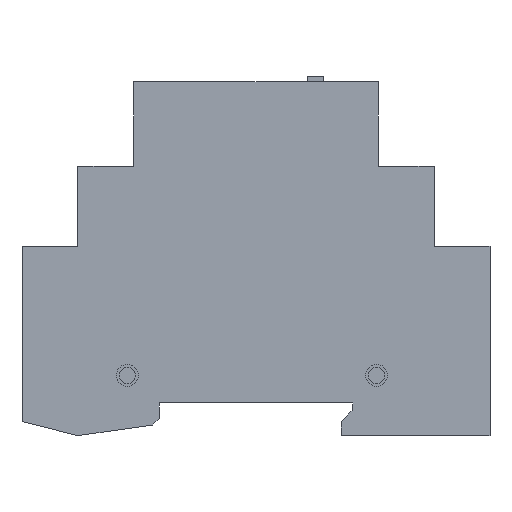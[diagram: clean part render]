
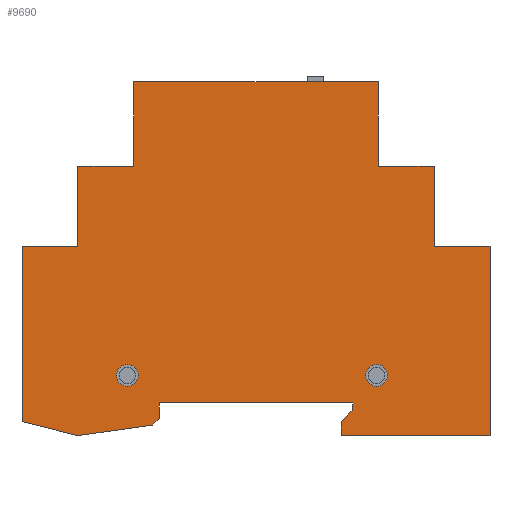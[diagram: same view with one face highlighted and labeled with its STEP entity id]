
A CAD part, left-side view. The second image highlights one B-rep face of the part: STEP entity #9690.
In plain terms, the highlighted planar face has unit normal (-1, 0, 0).
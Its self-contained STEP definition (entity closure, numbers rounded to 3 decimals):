
#388=LINE('',#14154,#1338);
#391=LINE('',#14159,#1341);
#393=LINE('',#14163,#1343);
#395=LINE('',#14167,#1345);
#397=LINE('',#14171,#1347);
#399=LINE('',#14175,#1349);
#401=LINE('',#14179,#1351);
#403=LINE('',#14183,#1353);
#405=LINE('',#14187,#1355);
#407=LINE('',#14191,#1357);
#409=LINE('',#14195,#1359);
#411=LINE('',#14199,#1361);
#413=LINE('',#14203,#1363);
#415=LINE('',#14207,#1365);
#417=LINE('',#14211,#1367);
#419=LINE('',#14215,#1369);
#421=LINE('',#14219,#1371);
#423=LINE('',#14223,#1373);
#425=LINE('',#14227,#1375);
#427=LINE('',#14231,#1377);
#429=LINE('',#14234,#1379);
#1338=VECTOR('',#11516,10.);
#1341=VECTOR('',#11521,10.);
#1343=VECTOR('',#11525,10.);
#1345=VECTOR('',#11529,10.);
#1347=VECTOR('',#11533,10.);
#1349=VECTOR('',#11537,10.);
#1351=VECTOR('',#11541,10.);
#1353=VECTOR('',#11545,10.);
#1355=VECTOR('',#11549,10.);
#1357=VECTOR('',#11553,10.);
#1359=VECTOR('',#11557,10.);
#1361=VECTOR('',#11561,10.);
#1363=VECTOR('',#11565,10.);
#1365=VECTOR('',#11569,10.);
#1367=VECTOR('',#11573,10.);
#1369=VECTOR('',#11577,10.);
#1371=VECTOR('',#11581,10.);
#1373=VECTOR('',#11585,10.);
#1375=VECTOR('',#11589,10.);
#1377=VECTOR('',#11593,10.);
#1379=VECTOR('',#11597,10.);
#2233=FACE_BOUND('',#3276,.T.);
#2234=FACE_BOUND('',#3277,.T.);
#2588=FACE_OUTER_BOUND('',#3275,.T.);
#3275=EDGE_LOOP('',(#6844,#6845,#6846,#6847,#6848,#6849,#6850,#6851,#6852,
#6853,#6854,#6855,#6856,#6857,#6858,#6859,#6860,#6861,#6862,#6863,#6864));
#3276=EDGE_LOOP('',(#6865));
#3277=EDGE_LOOP('',(#6866));
#3988=CIRCLE('',#10401,2.);
#3990=CIRCLE('',#10405,2.);
#4329=VERTEX_POINT('',#14142);
#4331=VERTEX_POINT('',#14148);
#4332=VERTEX_POINT('',#14152);
#4333=VERTEX_POINT('',#14153);
#4334=VERTEX_POINT('',#14158);
#4335=VERTEX_POINT('',#14162);
#4336=VERTEX_POINT('',#14166);
#4337=VERTEX_POINT('',#14170);
#4338=VERTEX_POINT('',#14174);
#4339=VERTEX_POINT('',#14178);
#4340=VERTEX_POINT('',#14182);
#4341=VERTEX_POINT('',#14186);
#4342=VERTEX_POINT('',#14190);
#4343=VERTEX_POINT('',#14194);
#4344=VERTEX_POINT('',#14198);
#4345=VERTEX_POINT('',#14202);
#4346=VERTEX_POINT('',#14206);
#4347=VERTEX_POINT('',#14210);
#4348=VERTEX_POINT('',#14214);
#4349=VERTEX_POINT('',#14218);
#4350=VERTEX_POINT('',#14222);
#4351=VERTEX_POINT('',#14226);
#4352=VERTEX_POINT('',#14230);
#5301=EDGE_CURVE('',#4329,#4329,#3988,.T.);
#5303=EDGE_CURVE('',#4331,#4331,#3990,.T.);
#5304=EDGE_CURVE('',#4332,#4333,#388,.T.);
#5307=EDGE_CURVE('',#4334,#4332,#391,.T.);
#5309=EDGE_CURVE('',#4335,#4334,#393,.T.);
#5311=EDGE_CURVE('',#4336,#4335,#395,.T.);
#5313=EDGE_CURVE('',#4337,#4336,#397,.T.);
#5315=EDGE_CURVE('',#4338,#4337,#399,.T.);
#5317=EDGE_CURVE('',#4339,#4338,#401,.T.);
#5319=EDGE_CURVE('',#4340,#4339,#403,.T.);
#5321=EDGE_CURVE('',#4341,#4340,#405,.T.);
#5323=EDGE_CURVE('',#4342,#4341,#407,.T.);
#5325=EDGE_CURVE('',#4343,#4342,#409,.T.);
#5327=EDGE_CURVE('',#4344,#4343,#411,.T.);
#5329=EDGE_CURVE('',#4345,#4344,#413,.T.);
#5331=EDGE_CURVE('',#4346,#4345,#415,.T.);
#5333=EDGE_CURVE('',#4347,#4346,#417,.T.);
#5335=EDGE_CURVE('',#4348,#4347,#419,.T.);
#5337=EDGE_CURVE('',#4349,#4348,#421,.T.);
#5339=EDGE_CURVE('',#4350,#4349,#423,.T.);
#5341=EDGE_CURVE('',#4351,#4350,#425,.T.);
#5343=EDGE_CURVE('',#4352,#4351,#427,.T.);
#5345=EDGE_CURVE('',#4333,#4352,#429,.T.);
#6844=ORIENTED_EDGE('',*,*,#5345,.F.);
#6845=ORIENTED_EDGE('',*,*,#5304,.F.);
#6846=ORIENTED_EDGE('',*,*,#5307,.F.);
#6847=ORIENTED_EDGE('',*,*,#5309,.F.);
#6848=ORIENTED_EDGE('',*,*,#5311,.F.);
#6849=ORIENTED_EDGE('',*,*,#5313,.F.);
#6850=ORIENTED_EDGE('',*,*,#5315,.F.);
#6851=ORIENTED_EDGE('',*,*,#5317,.F.);
#6852=ORIENTED_EDGE('',*,*,#5319,.F.);
#6853=ORIENTED_EDGE('',*,*,#5321,.F.);
#6854=ORIENTED_EDGE('',*,*,#5323,.F.);
#6855=ORIENTED_EDGE('',*,*,#5325,.F.);
#6856=ORIENTED_EDGE('',*,*,#5327,.F.);
#6857=ORIENTED_EDGE('',*,*,#5329,.F.);
#6858=ORIENTED_EDGE('',*,*,#5331,.F.);
#6859=ORIENTED_EDGE('',*,*,#5333,.F.);
#6860=ORIENTED_EDGE('',*,*,#5335,.F.);
#6861=ORIENTED_EDGE('',*,*,#5337,.F.);
#6862=ORIENTED_EDGE('',*,*,#5339,.F.);
#6863=ORIENTED_EDGE('',*,*,#5341,.F.);
#6864=ORIENTED_EDGE('',*,*,#5343,.F.);
#6865=ORIENTED_EDGE('',*,*,#5301,.T.);
#6866=ORIENTED_EDGE('',*,*,#5303,.T.);
#9171=PLANE('',#10428);
#9690=ADVANCED_FACE('',(#2588,#2233,#2234),#9171,.F.);
#10401=AXIS2_PLACEMENT_3D('',#14143,#11502,#11503);
#10405=AXIS2_PLACEMENT_3D('',#14149,#11510,#11511);
#10428=AXIS2_PLACEMENT_3D('',#14235,#11598,#11599);
#11502=DIRECTION('center_axis',(1.,0.,0.));
#11503=DIRECTION('ref_axis',(0.,0.,-1.));
#11510=DIRECTION('center_axis',(1.,0.,0.));
#11511=DIRECTION('ref_axis',(0.,0.,-1.));
#11516=DIRECTION('',(0.,0.97,0.243));
#11521=DIRECTION('',(0.,0.99,-0.138));
#11525=DIRECTION('',(0.,0.707,-0.707));
#11529=DIRECTION('',(0.,0.,-1.));
#11533=DIRECTION('',(0.,1.,0.));
#11537=DIRECTION('',(0.,0.,1.));
#11541=DIRECTION('',(0.,-1.,0.));
#11545=DIRECTION('',(0.,-0.707,0.707));
#11549=DIRECTION('',(0.,0.,1.));
#11553=DIRECTION('',(0.,1.,0.));
#11557=DIRECTION('',(0.,0.,-1.));
#11561=DIRECTION('',(0.,-1.,0.));
#11565=DIRECTION('',(0.,0.,-1.));
#11569=DIRECTION('',(0.,-1.,0.));
#11573=DIRECTION('',(0.,0.,-1.));
#11577=DIRECTION('',(0.,-1.,0.));
#11581=DIRECTION('',(0.,0.,1.));
#11585=DIRECTION('',(0.,-1.,0.));
#11589=DIRECTION('',(0.,0.,1.));
#11593=DIRECTION('',(0.,-1.,0.));
#11597=DIRECTION('',(0.,0.,1.));
#11598=DIRECTION('center_axis',(1.,0.,0.));
#11599=DIRECTION('ref_axis',(0.,0.,-1.));
#14142=CARTESIAN_POINT('',(0.,28.481,-16.033));
#14143=CARTESIAN_POINT('Origin',(0.,28.481,-18.033));
#14148=CARTESIAN_POINT('',(0.,-17.327,-16.033));
#14149=CARTESIAN_POINT('Origin',(0.,-17.327,-18.033));
#14152=CARTESIAN_POINT('',(0.,37.579,-29.095));
#14153=CARTESIAN_POINT('',(0.,47.829,-26.53));
#14154=CARTESIAN_POINT('',(0.,37.579,-29.095));
#14158=CARTESIAN_POINT('',(0.,23.84,-27.176));
#14159=CARTESIAN_POINT('',(0.,23.84,-27.176));
#14162=CARTESIAN_POINT('',(0.,22.579,-25.916));
#14163=CARTESIAN_POINT('',(0.,22.579,-25.916));
#14166=CARTESIAN_POINT('',(0.,22.579,-23.092));
#14167=CARTESIAN_POINT('',(0.,22.579,-23.092));
#14170=CARTESIAN_POINT('',(0.,-12.921,-23.092));
#14171=CARTESIAN_POINT('',(0.,-12.921,-23.092));
#14174=CARTESIAN_POINT('',(0.,-12.921,-24.527));
#14175=CARTESIAN_POINT('',(0.,-12.921,-24.527));
#14178=CARTESIAN_POINT('',(0.,-12.823,-24.527));
#14179=CARTESIAN_POINT('',(0.,-12.823,-24.527));
#14182=CARTESIAN_POINT('',(0.,-10.823,-26.527));
#14183=CARTESIAN_POINT('',(0.,-10.823,-26.527));
#14186=CARTESIAN_POINT('',(0.,-10.823,-29.095));
#14187=CARTESIAN_POINT('',(0.,-10.823,-29.095));
#14190=CARTESIAN_POINT('',(0.,-38.171,-29.095));
#14191=CARTESIAN_POINT('',(0.,-38.171,-29.095));
#14194=CARTESIAN_POINT('',(0.,-38.171,5.658));
#14195=CARTESIAN_POINT('',(0.,-38.171,5.658));
#14198=CARTESIAN_POINT('',(0.,-27.921,5.658));
#14199=CARTESIAN_POINT('',(0.,-27.921,5.658));
#14202=CARTESIAN_POINT('',(0.,-27.921,20.405));
#14203=CARTESIAN_POINT('',(0.,-27.921,20.405));
#14206=CARTESIAN_POINT('',(0.,-17.671,20.405));
#14207=CARTESIAN_POINT('',(0.,-17.671,20.405));
#14210=CARTESIAN_POINT('',(0.,-17.671,35.905));
#14211=CARTESIAN_POINT('',(0.,-17.671,35.905));
#14214=CARTESIAN_POINT('',(0.,27.329,35.905));
#14215=CARTESIAN_POINT('',(0.,27.329,35.905));
#14218=CARTESIAN_POINT('',(0.,27.329,20.405));
#14219=CARTESIAN_POINT('',(0.,27.329,20.405));
#14222=CARTESIAN_POINT('',(0.,37.579,20.405));
#14223=CARTESIAN_POINT('',(0.,37.579,20.405));
#14226=CARTESIAN_POINT('',(0.,37.579,5.658));
#14227=CARTESIAN_POINT('',(0.,37.579,5.658));
#14230=CARTESIAN_POINT('',(0.,47.829,5.658));
#14231=CARTESIAN_POINT('',(0.,47.829,5.658));
#14234=CARTESIAN_POINT('',(0.,47.829,-26.53));
#14235=CARTESIAN_POINT('Origin',(0.,4.238,0.217));
